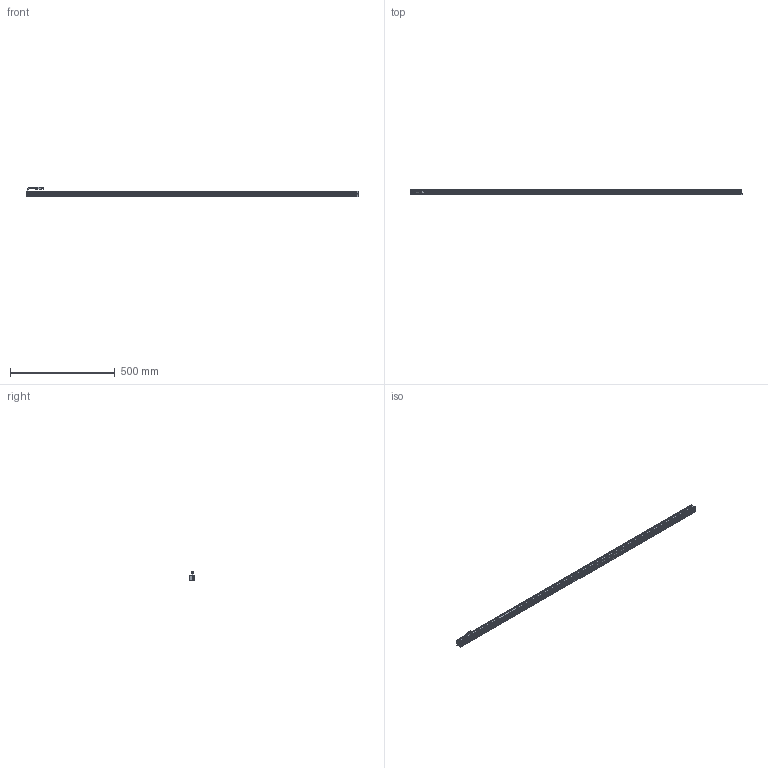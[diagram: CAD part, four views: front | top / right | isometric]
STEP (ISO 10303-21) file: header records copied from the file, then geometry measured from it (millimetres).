
FILE_DESCRIPTION (( 'STEP AP203' ), '1' );
FILE_NAME ('CK-BL158728.STEP', '2026-01-03T00:59:08', ( '' ), ( '' ), 'SwSTEP 2.0', 'SolidWorks 2022', '' );
FILE_SCHEMA (( 'CONFIG_CONTROL_DESIGN' ));
Length unit declared in the file: millimetre
Products named in the file (6): CK-BL158728-003A; CK-BL158728-002A; 十字沉头螺丝 M2x10; 光源线-01; CK-BL158728-001A; CK-BL158728
Assembly tree (11 placements, depth 2):
  CK-BL158728
    CK-BL158728-001A
    CK-BL158728-002A  x2
    CK-BL158728-003A
    光源线-01
    十字沉头螺丝 M2x10  x6
Bounding box: 1587 x 27 x 47.34 mm (x, y, z)
Volume: 503747.1 mm3; surface area: 440448.5 mm2
Topology: 13 solids, 13 shells, 575 faces, 1494 edges, 950 vertices
Faces by surface type: plane 337, cylinder 172, cone 46, bspline 20
Entity records: 13997 total; most frequent: CARTESIAN_POINT 2782, ORIENTED_EDGE 2202, DIRECTION 2163, EDGE_CURVE 1101, VECTOR 781, LINE 781, VERTEX_POINT 714, AXIS2_PLACEMENT_3D 691
